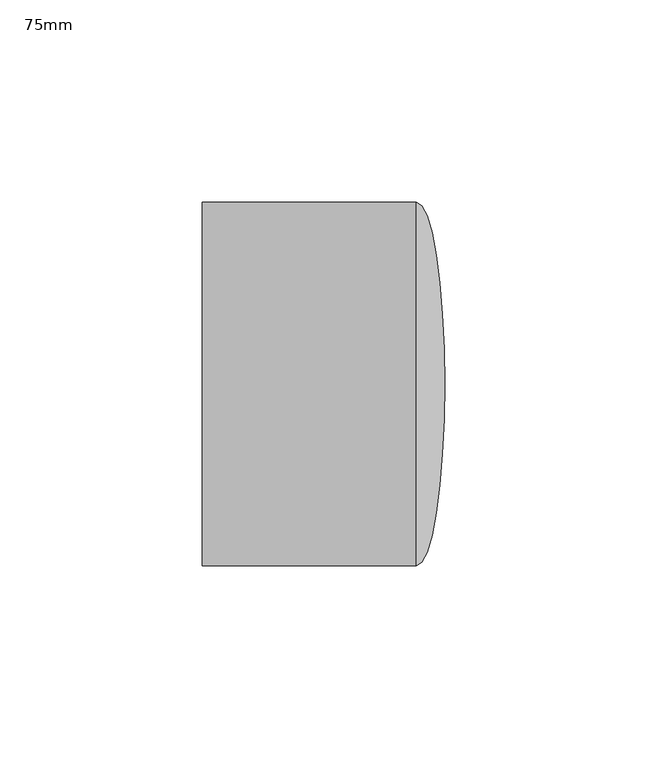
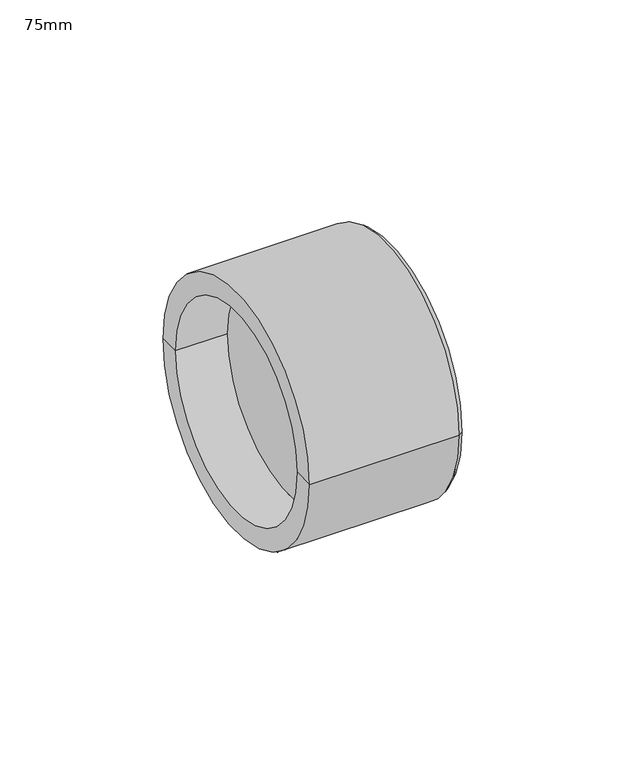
"""IFC4 building model written with IfcOpenShell, lengths in millimetres: pipe fitting geometry, PipeFitting_HTA_CPVC_Caps : 75mm."""

from ifc_helpers import new_model, si_unit, point, frame, origin, place, context, project, spatial, polyline, circle_curve, ellipse_curve, trimmed, source, transform, mapped, element, save
from ifc_brep_helpers import plane_surface, cylinder_surface, revolved_surface, advanced_brep


def pipe_fitting_75mm_c7e6252d(model_context):
    return source(origin(), model_context, "Body", "AdvancedBrep", [
        advanced_brep(
        [(23.025, -45.0, 0.0), (23.025, 45.0, 0.0), (30.0, 0.0, 0.0), (-30.0, -45.0, 0.0), (-30.0, 45.0, 0.0), (-30.0, -37.5, 0.0), (-30.0, 37.5, 0.0), (-11.4296875, -37.5, 0.0), (-11.4296875, 37.5, 0.0)],
        [
            (0, 1, circle_curve(frame((23.025, 0.0, 0.0), z_axis=(1.0, 0.0, 0.0), x_axis=(0.0, 1.0, 0.0)), 45.0)),
            (1, 2, ellipse_curve(frame((23.025, 0.0, 0.0), z_axis=(0.0, 0.0, -1.0), x_axis=(0.0, 1.0, 0.0)), 45.0, 6.975)),
            (2, 0, ellipse_curve(frame((23.025, 0.0, 0.0), z_axis=(0.0, 0.0, -1.0), x_axis=(0.0, -1.0, 0.0)), 45.0, 6.975)),
            (1, 0, circle_curve(frame((23.025, 0.0, 0.0), z_axis=(1.0, 0.0, 0.0), x_axis=(0.0, 1.0, 0.0)), 45.0)),
            (0, 3),
            (3, 4, circle_curve(frame((-30.0, 0.0, 0.0), z_axis=(1.0, 0.0, 0.0), x_axis=(0.0, 1.0, 0.0)), 45.0)),
            (4, 1),
            (4, 3, circle_curve(frame((-30.0, 0.0, 0.0), z_axis=(1.0, 0.0, 0.0), x_axis=(0.0, 1.0, 0.0)), 45.0)),
            (3, 5),
            (5, 6, circle_curve(frame((-30.0, 0.0, 0.0), z_axis=(1.0, 0.0, 0.0), x_axis=(0.0, 1.0, 0.0)), 37.5)),
            (6, 4),
            (6, 5, circle_curve(frame((-30.0, 0.0, 0.0), z_axis=(1.0, 0.0, 0.0), x_axis=(0.0, 1.0, 0.0)), 37.5)),
            (7, 8, circle_curve(frame((-11.4296875, 0.0, 0.0), z_axis=(-1.0, 0.0, 0.0), x_axis=(0.0, 1.0, 0.0)), 37.5)),
            (8, 7, circle_curve(frame((-11.4296875, 0.0, 0.0), z_axis=(-1.0, 0.0, 0.0), x_axis=(0.0, 1.0, 0.0)), 37.5)),
            (8, 6),
            (5, 7),
        ],
        [
            revolved_surface(trimmed(ellipse_curve(frame((23.025, 0.0, 0.0), z_axis=(0.0, 0.0, 1.0), x_axis=(0.0, 1.0, 0.0)), 45.0, 6.975), [point((30.0, 0.0, 0.0))], [point((23.025, 45.0, 0.0))], True, "CARTESIAN"), (-380.0, 0.0, 0.0), (-1.0, 0.0, 0.0)),
            cylinder_surface(frame((-380.0, 0.0, 0.0), z_axis=(-1.0, 0.0, 0.0), x_axis=(0.0, 1.0, 0.0)), 45.0),
            plane_surface(frame((-30.0, 0.0, 0.0), z_axis=(-1.0, 0.0, 0.0), x_axis=(0.0, 1.0, 0.0))),
            plane_surface(frame((-11.4296875, 37.5, 0.0), z_axis=(-1.0, 0.0, 0.0), x_axis=(0.0, 0.0, 1.0))),
            revolved_surface(polyline([(-11.4296875, 37.5, 0.0), (-30.0, 37.5, 0.0)]), (-30.0, 0.0, 0.0), (1.0, 0.0, 0.0)),
        ],
        [
            (0, [[1, 2, 3]]),
            (0, [[-2, 4, -3]]),
            (1, [[-1, 5, 6, 7]]),
            (1, [[-4, -7, 8, -5]]),
            (2, [[-6, 9, 10, 11]]),
            (2, [[-8, -11, 12, -9]]),
            (3, [[13, 14]]),
            (4, [[-14, 15, -10, 16]]),
            (4, [[-13, -16, -12, -15]]),
        ],
    ),
    ])


if __name__ == "__main__":
    model = new_model("IFC4")
    model_context = context("Model", 3, world=origin())
    ifc_project = project(units=[si_unit("LENGTHUNIT", "METRE", prefix="MILLI")], contexts=[model_context])
    site = spatial("IfcSite", under=ifc_project)
    building = spatial("IfcBuilding", under=site)
    placement = place(None, origin())
    pipe_fitting_75mm_shape = pipe_fitting_75mm_c7e6252d(model_context)
    element("IfcPipeFitting", 1, ObjectType="PipeFitting_HTA_CPVC_Caps : 75mm", at=placement, inside=building, context=model_context, shape_type="MappedRepresentation", body=[
        mapped(pipe_fitting_75mm_shape, transform((0.0, 0.0, 0.0), x_axis=(1.0, 0.0, 0.0), y_axis=(0.0, 1.0, 0.0), z_axis=(0.0, 0.0, 1.0))),
    ])
    save(model, "model.ifc")
